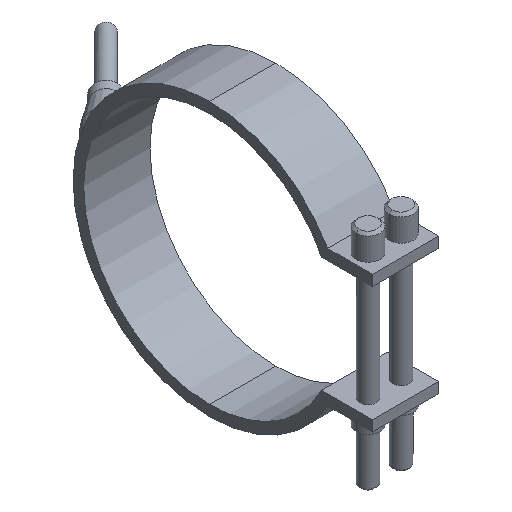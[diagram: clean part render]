
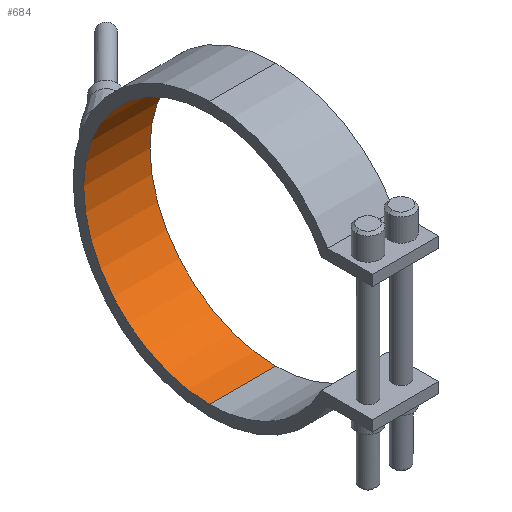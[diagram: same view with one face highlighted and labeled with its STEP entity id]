
A CAD part, isometric view. The second image highlights one B-rep face of the part: STEP entity #684.
In plain terms, the highlighted cylindrical face has radius 47.5 mm (diameter 95 mm), a partial arc.
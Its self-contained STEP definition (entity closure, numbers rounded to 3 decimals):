
#354=CARTESIAN_POINT('Vertex',(12.5,0.,47.5)) ;
#359=CARTESIAN_POINT('Axis2P3D Location',(12.5,0.,0.)) ;
#363=CARTESIAN_POINT('Vertex',(12.5,0.,-47.5)) ;
#470=CARTESIAN_POINT('Vertex',(-12.5,0.,-47.5)) ;
#473=CARTESIAN_POINT('Axis2P3D Location',(-12.5,0.,0.)) ;
#477=CARTESIAN_POINT('Vertex',(-12.5,0.,47.5)) ;
#656=CARTESIAN_POINT('Line Origine',(12.5,0.,47.5)) ;
#668=CARTESIAN_POINT('Axis2P3D Location',(12.5,0.,0.)) ;
#673=CARTESIAN_POINT('Line Origine',(12.5,0.,-47.5)) ;
#360=DIRECTION('Axis2P3D Direction',(1.,0.,0.)) ;
#474=DIRECTION('Axis2P3D Direction',(1.,0.,0.)) ;
#657=DIRECTION('Vector Direction',(1.,0.,0.)) ;
#669=DIRECTION('Axis2P3D Direction',(1.,0.,-0.)) ;
#670=DIRECTION('Axis2P3D XDirection',(0.,0.,-1.)) ;
#674=DIRECTION('Vector Direction',(1.,0.,0.)) ;
#361=AXIS2_PLACEMENT_3D('Circle Axis2P3D',#359,#360,$) ;
#475=AXIS2_PLACEMENT_3D('Circle Axis2P3D',#473,#474,$) ;
#671=AXIS2_PLACEMENT_3D('Cylinder Axis2P3D',#668,#669,#670) ;
#679=ORIENTED_EDGE('',*,*,#365,.T.) ;
#680=ORIENTED_EDGE('',*,*,#660,.T.) ;
#681=ORIENTED_EDGE('',*,*,#479,.F.) ;
#682=ORIENTED_EDGE('',*,*,#677,.T.) ;
#658=VECTOR('Line Direction',#657,1.) ;
#675=VECTOR('Line Direction',#674,1.) ;
#684=ADVANCED_FACE('29095025',(#683),#672,.F.) ;
#362=CIRCLE('generated circle',#361,47.5) ;
#476=CIRCLE('generated circle',#475,47.5) ;
#672=CYLINDRICAL_SURFACE('generated cylinder',#671,47.5) ;
#365=EDGE_CURVE('',#364,#355,#362,.T.) ;
#479=EDGE_CURVE('',#471,#478,#476,.T.) ;
#660=EDGE_CURVE('',#355,#478,#659,.F.) ;
#677=EDGE_CURVE('',#471,#364,#676,.T.) ;
#678=EDGE_LOOP('',(#679,#680,#681,#682)) ;
#683=FACE_OUTER_BOUND('',#678,.T.) ;
#659=LINE('Line',#656,#658) ;
#676=LINE('Line',#673,#675) ;
#355=VERTEX_POINT('',#354) ;
#364=VERTEX_POINT('',#363) ;
#471=VERTEX_POINT('',#470) ;
#478=VERTEX_POINT('',#477) ;
